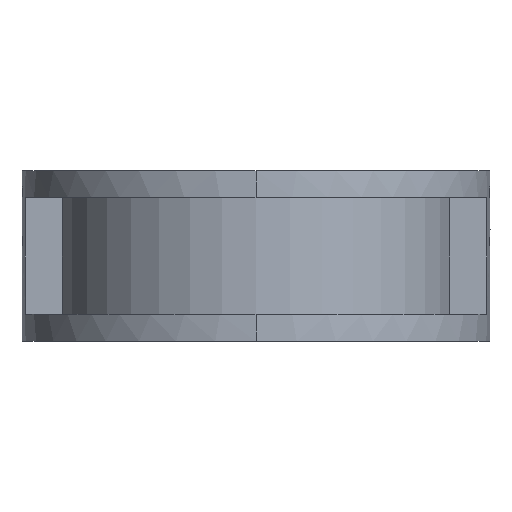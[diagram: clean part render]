
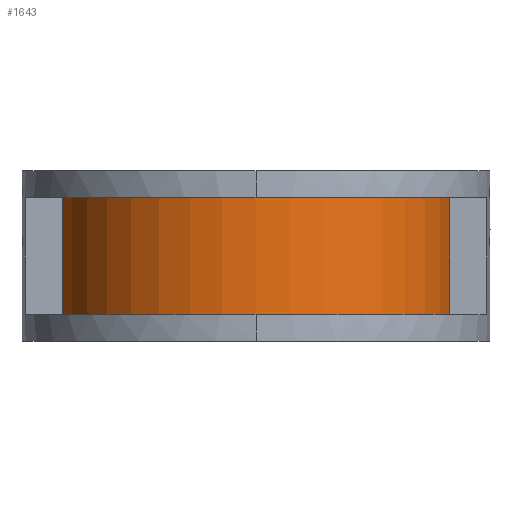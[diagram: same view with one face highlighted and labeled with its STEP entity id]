
A CAD part, left-side view. The second image highlights one B-rep face of the part: STEP entity #1643.
In plain terms, the highlighted cylindrical face has radius 81 mm (diameter 162 mm), a partial arc.
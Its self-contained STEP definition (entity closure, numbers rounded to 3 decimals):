
#347=CARTESIAN_POINT('',(0.,0.,24.));
#348=DIRECTION('',(0.,0.,1.));
#349=DIRECTION('',(-0.198,0.98,0.));
#350=AXIS2_PLACEMENT_3D('',#347,#348,#349);
#352=DIRECTION('',(0.,0.,1.));
#353=VECTOR('',#352,48.);
#354=CARTESIAN_POINT('',(-16.,-79.404,-24.));
#355=LINE('',#354,#353);
#356=CARTESIAN_POINT('',(0.,0.,-24.));
#357=DIRECTION('',(0.,0.,-1.));
#358=DIRECTION('',(-0.198,-0.98,0.));
#359=AXIS2_PLACEMENT_3D('',#356,#357,#358);
#361=DIRECTION('',(0.,0.,1.));
#362=VECTOR('',#361,48.);
#363=CARTESIAN_POINT('',(-16.,79.404,-24.));
#364=LINE('',#363,#362);
#1119=CARTESIAN_POINT('',(-16.,79.404,-24.));
#1121=VERTEX_POINT('',#1119);
#1122=CARTESIAN_POINT('',(-16.,-79.404,-24.));
#1124=VERTEX_POINT('',#1122);
#1132=CARTESIAN_POINT('',(-16.,79.404,24.));
#1133=VERTEX_POINT('',#1132);
#1138=CARTESIAN_POINT('',(-16.,-79.404,24.));
#1140=VERTEX_POINT('',#1138);
#1631=CARTESIAN_POINT('',(0.,0.,-26.4));
#1632=DIRECTION('',(0.,0.,1.));
#1633=DIRECTION('',(-1.,0.,0.));
#1634=AXIS2_PLACEMENT_3D('',#1631,#1632,#1633);
#1635=CYLINDRICAL_SURFACE('',#1634,81.);
#1636=ORIENTED_EDGE('',*,*,#1613,.T.);
#1638=ORIENTED_EDGE('',*,*,#1637,.F.);
#1639=ORIENTED_EDGE('',*,*,#1534,.T.);
#1640=ORIENTED_EDGE('',*,*,#1582,.T.);
#1641=EDGE_LOOP('',(#1636,#1638,#1639,#1640));
#1642=FACE_OUTER_BOUND('',#1641,.F.);
#1643=ADVANCED_FACE('',(#1642),#1635,.T.);
#351=CIRCLE('',#350,81.);
#360=CIRCLE('',#359,81.);
#1534=EDGE_CURVE('',#1124,#1121,#360,.T.);
#1582=EDGE_CURVE('',#1121,#1133,#364,.T.);
#1613=EDGE_CURVE('',#1133,#1140,#351,.T.);
#1637=EDGE_CURVE('',#1124,#1140,#355,.T.);
